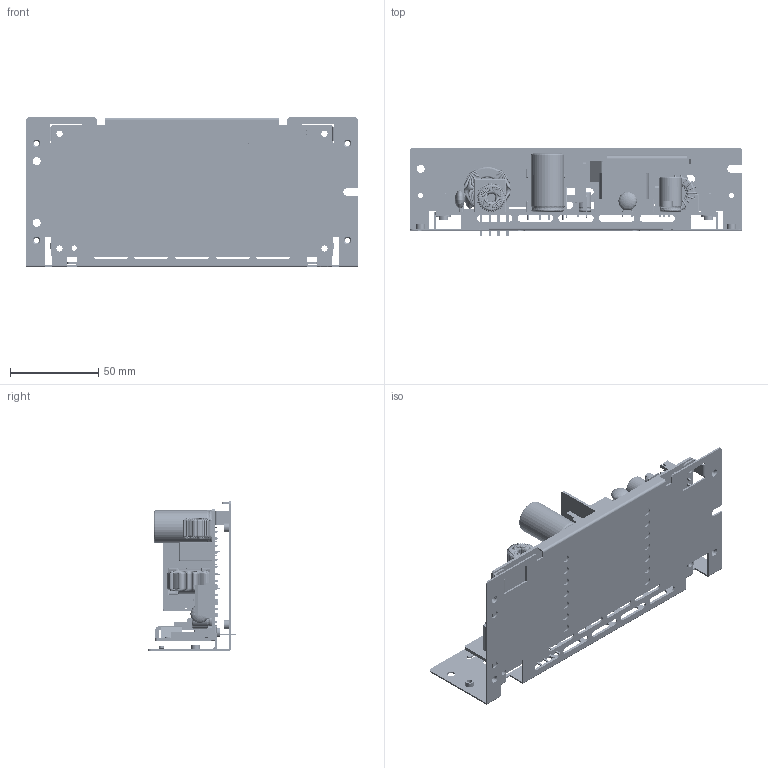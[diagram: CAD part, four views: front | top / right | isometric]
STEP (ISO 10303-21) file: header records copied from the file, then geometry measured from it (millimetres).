
FILE_DESCRIPTION((''),'2;1');
FILE_NAME('PRT0001','2012-11-16T',('ERIC.YP.CHEN'),(''),'PRO/ENGINEER BY PARAMETRIC TECHNOLOGY CORPORATION, 2010280','PRO/ENGINEER BY PARAMETRIC TECHNOLOGY CORPORATION, 2010280','');
FILE_SCHEMA(('CONFIG_CONTROL_DESIGN'));
Length unit declared in the file: millimetre
Products named in the file (1): PRT0001
Bounding box: 188 x 50.2 x 85 mm (x, y, z)
Volume: 100397.9 mm3; surface area: 117541.8 mm2
Topology: 22 solids, 42 shells, 4611 faces, 11750 edges, 6902 vertices
Faces by surface type: cylinder 1702, plane 1493, torus 1209, bspline 92, sphere 65, revolution 26, cone 24
Entity records: 163748 total; most frequent: CARTESIAN_POINT 50845, DIRECTION 25059, ORIENTED_EDGE 23202, EDGE_CURVE 11638, AXIS2_PLACEMENT_3D 9838, VERTEX_POINT 6902, VECTOR 5357, LINE 5357
